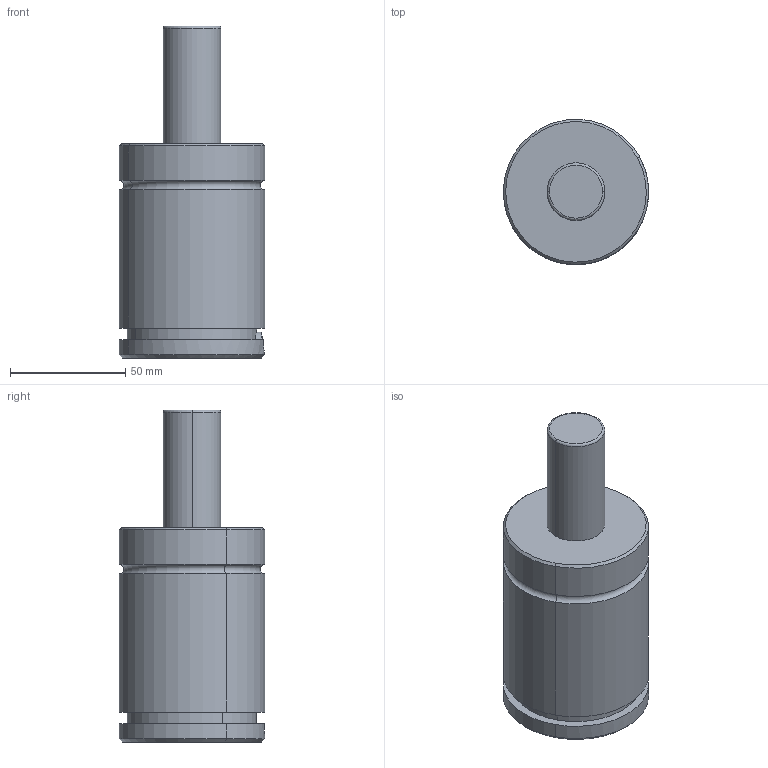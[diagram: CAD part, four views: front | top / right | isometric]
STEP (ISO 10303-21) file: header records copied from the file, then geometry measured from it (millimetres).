
FILE_DESCRIPTION(('FreeCAD Model'),'2;1');
FILE_NAME('Open CASCADE Shape Model','2024-11-12T16:12:33',('Author'),( ''),'Open CASCADE STEP processor 7.6','FreeCAD','Unknown');
FILE_SCHEMA(('AUTOMOTIVE_DESIGN { 1 0 10303 214 1 1 1 1 }'));
Length unit declared in the file: millimetre
Products named in the file (1): Cut
Bounding box: 62.98 x 62.98 x 144 mm (x, y, z)
Volume: 307820.6 mm3; surface area: 31253.4 mm2
Topology: 1 solids, 1 shells, 68 faces, 153 edges, 92 vertices
Faces by surface type: cylinder 27, plane 19, cone 16, torus 6
Full cylindrical faces by diameter (mm): 8 x4
Entity records: 2009 total; most frequent: CARTESIAN_POINT 465, DIRECTION 338, ORIENTED_EDGE 298, EDGE_CURVE 149, AXIS2_PLACEMENT_3D 140, VERTEX_POINT 92, FACE_BOUND 79, EDGE_LOOP 79
